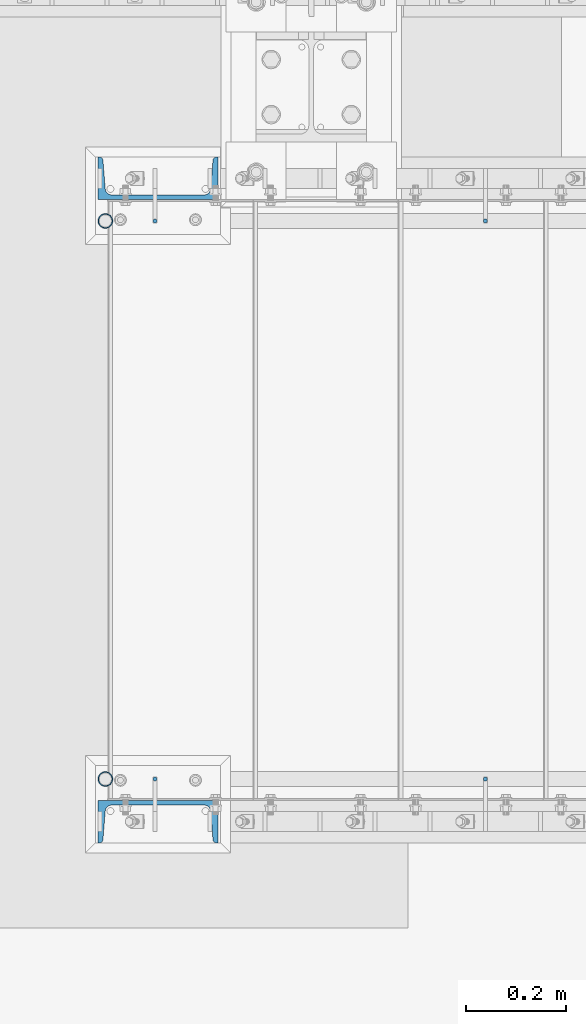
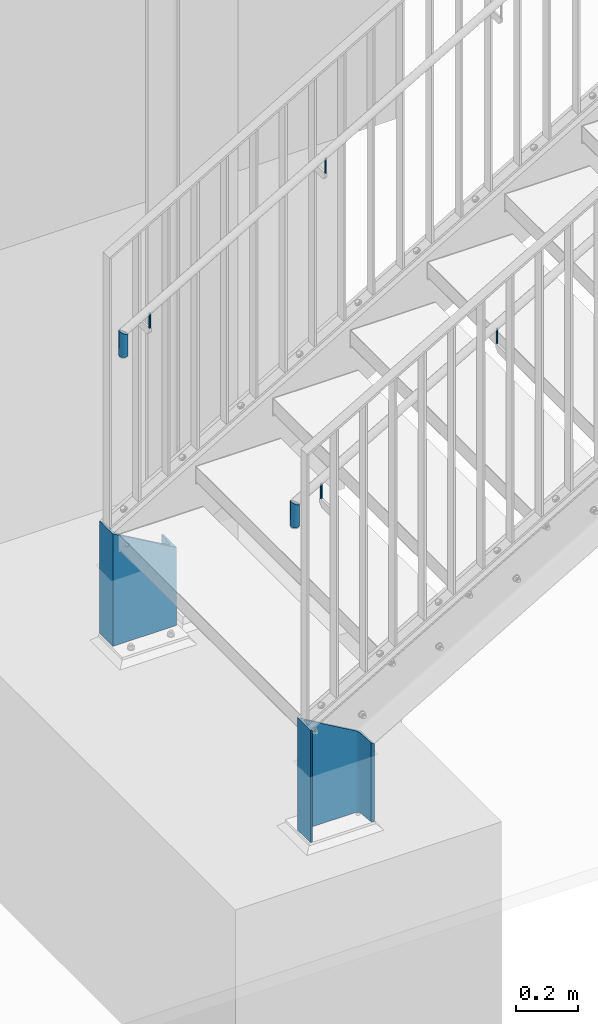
# One storey, part 5 of 145: 8 columns, 6 openings.
"""IFC2X3 building model written with IfcOpenShell, lengths in millimetres."""

from ifc_helpers import new_model, entity, si_unit, converted_unit, frame, frame_2d, origin, origin_with_axes, origin_2d, origin_2d_with_axis, place, context, project, spatial, polyline, circle, hollow_circle, u_section, outline, extrude, clip, halfspace, material, element, save


model = new_model("IFC2X3")

# Units and contexts
model_context = context("Model", 3, precision=1e-09, world=origin_with_axes())
ifc_project = project(units=[si_unit("LENGTHUNIT", "METRE", prefix="MILLI"), si_unit("AREAUNIT", "SQUARE_METRE"), si_unit("VOLUMEUNIT", "CUBIC_METRE"), converted_unit("PLANEANGLEUNIT", "DEGREE", entity("IfcPlaneAngleMeasure", 0.01745329), si_unit("PLANEANGLEUNIT", "RADIAN"), dimensions=[0, 0, 0, 0, 0, 0, 0])], contexts=[model_context])

# Site, building, storey
site_placement = place(None, origin_with_axes())
site = spatial("IfcSite", under=ifc_project, at=site_placement, Name="BZ1 Grund- und Mittelschule 85716 Unterschlei?heim", CompositionType="ELEMENT")
building_placement = place(site_placement, origin_with_axes())
building = spatial("IfcBuilding", under=site, at=building_placement, Name="Struktur 1", CompositionType="ELEMENT")
storey_placement = place(building_placement, origin_with_axes())
storey = spatial("IfcBuildingStorey", under=building, at=storey_placement, Name="Default Storey", CompositionType="ELEMENT", Elevation=0.0)

# Columns
ifc_material_1 = material(Name="1.4301")
column_1_placement = place(None, frame((16659.545893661, -3077.502, 447.00540431), z_axis=(0.0, 0.0, -1.0), x_axis=(1.0, 0.0, 0.0)))
element("IfcColumn", 1, at=column_1_placement, inside=storey, material=ifc_material_1, Name="-", ObjectType="-", context=model_context, shape_type="Clipping", body=[
    clip(extrude(hollow_circle(Radius=15.0, WallThickness=2.0, at=origin_2d()), origin(), (0.0, 0.0, -1.0), 115.844928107), halfspace(frame((-12284.371726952, -3077.502, -7158.30757564), z_axis=(-0.498652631, 0.0, 0.866801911), x_axis=(0.0, 1.0, 0.0)), True)),
])
column_2_placement = place(None, frame((16659.545893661, -1962.502, 447.00540431), z_axis=(0.0, 0.0, 1.0), x_axis=(1.0, 0.0, 0.0)))
element("IfcColumn", 2, at=column_2_placement, inside=storey, material=ifc_material_1, Name="-", ObjectType="-", context=model_context, shape_type="Clipping", body=[
    clip(extrude(hollow_circle(Radius=15.0, WallThickness=2.0, at=origin_2d()), origin(), (0.0, 0.0, 1.0), 115.844928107), halfspace(frame((-12284.371726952, 1962.502, 7158.30757564), z_axis=(-0.498652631, 0.0, -0.866801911), x_axis=(0.0, -1.0, 0.0)), True)),
])

# Column, opening
column_3_placement = place(None, frame((16758.545893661, -3077.502, 520.920612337), z_axis=(0.0, 0.0, -1.0), x_axis=(0.0, -1.0, 0.0)))
column_3 = element("IfcColumn", 3, at=column_3_placement, inside=storey, material=ifc_material_1, Name="-", ObjectType="-", context=model_context, shape_type="SweptSolid", body=[
    extrude(circle(Radius=4.0, at=origin_2d()), origin(), (0.0, 0.0, -1.0), 60.0),
])
opening_1_placement = place(column_3_placement, frame((-104.1, 0.0, -60.0), z_axis=(1.0, 0.0, 0.0), x_axis=(0.0, -1.0, 0.0)))
element("IfcOpeningElement", 4, at=opening_1_placement, cuts=column_3, ObjectType="Opening", context=model_context, shape_type="SweptSolid", body=[
    extrude(outline(polyline([(-13.305390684, -10.064322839), (15.967881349, 6.958222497), (-18.138790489, 6.958222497), (-13.305390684, -10.064322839)])), origin(), (0.0, 0.0, 1.0), 208.2),
])

column_4_placement = place(None, frame((16758.545893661, -1962.502, 520.920612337), z_axis=(0.0, 0.0, 1.0), x_axis=(0.0, 1.0, 0.0)))
column_4 = element("IfcColumn", 5, at=column_4_placement, inside=storey, material=ifc_material_1, Name="-", ObjectType="-", context=model_context, shape_type="SweptSolid", body=[
    extrude(circle(Radius=4.0, at=origin_2d()), origin(), (0.0, 0.0, 1.0), 60.0),
])
opening_2_placement = place(column_4_placement, frame((-104.1, 13.305390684, 49.935677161), z_axis=(-1.0, 0.0, 0.0), x_axis=(0.0, -0.864466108, 0.502691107)))
element("IfcOpeningElement", 6, at=opening_2_placement, cuts=column_4, ObjectType="Opening", context=model_context, shape_type="SweptSolid", body=[
    extrude(outline(polyline([(0.0, 0.0), (33.862833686, 0.0), (4.378771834, 17.145120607), (0.0, 0.0)])), origin(), (0.0, 0.0, -1.0), 208.2),
])

column_5_placement = place(None, frame((17418.545893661, -3077.502, 904.713715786), z_axis=(0.0, 0.0, -1.0), x_axis=(0.0, -1.0, 0.0)))
column_5 = element("IfcColumn", 7, at=column_5_placement, inside=storey, material=ifc_material_1, Name="-", ObjectType="-", context=model_context, shape_type="SweptSolid", body=[
    extrude(circle(Radius=4.0, at=origin_2d()), origin(), (0.0, 0.0, -1.0), 60.0),
])
opening_3_placement = place(column_5_placement, frame((-104.1, 0.0, -60.0), z_axis=(1.0, 0.0, 0.0), x_axis=(0.0, -1.0, 0.0)))
element("IfcOpeningElement", 8, at=opening_3_placement, cuts=column_5, ObjectType="Opening", context=model_context, shape_type="SweptSolid", body=[
    extrude(outline(polyline([(-13.305390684, -10.064322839), (15.967881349, 6.958222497), (-18.138790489, 6.958222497), (-13.305390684, -10.064322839)])), origin(), (0.0, 0.0, 1.0), 208.2),
])

column_6_placement = place(None, frame((17418.545893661, -1962.502, 904.713715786), z_axis=(0.0, 0.0, 1.0), x_axis=(0.0, 1.0, 0.0)))
column_6 = element("IfcColumn", 9, at=column_6_placement, inside=storey, material=ifc_material_1, Name="-", ObjectType="-", context=model_context, shape_type="SweptSolid", body=[
    extrude(circle(Radius=4.0, at=origin_2d()), origin(), (0.0, 0.0, 1.0), 60.0),
])
opening_4_placement = place(column_6_placement, frame((-104.1, 13.305390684, 49.935677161), z_axis=(-1.0, 0.0, 0.0), x_axis=(0.0, -0.864466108, 0.502691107)))
element("IfcOpeningElement", 10, at=opening_4_placement, cuts=column_6, ObjectType="Opening", context=model_context, shape_type="SweptSolid", body=[
    extrude(outline(polyline([(0.0, 0.0), (33.862833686, 0.0), (4.378771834, 17.145120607), (0.0, 0.0)])), origin(), (0.0, 0.0, -1.0), 208.2),
])

ifc_material_2 = material(Name="S235JR")
column_7_placement = place(None, frame((16764.545399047, -3142.302, -730.0), z_axis=(0.0, 0.0, -1.0), x_axis=(0.0, -1.0, 0.0)))
column_7 = element("IfcColumn", 11, at=column_7_placement, inside=storey, material=ifc_material_2, Name="-", ObjectType="-", context=model_context, shape_type="Clipping", body=[
    clip(extrude(u_section(Depth=240.0, FlangeWidth=85.0, WebThickness=9.5, FlangeThickness=13.0, FilletRadius=13.0, EdgeRadius=6.5, FlangeSlope=4.574, at=frame_2d((20.2, 0.0))), origin(), (0.0, 0.0, -1.0), 576.292969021), halfspace(frame((-3142.302, 12748.124663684, -7711.696176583), z_axis=(0.0, 0.498652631, 0.866801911), x_axis=(1.0, 0.0, 0.0)), True)),
])
opening_5_placement = place(column_7_placement, frame((-12.3, 65.0, -383.6363644), z_axis=(-1.0, 0.0, 0.0), x_axis=(0.0, 0.0, -1.0)))
element("IfcOpeningElement", 12, at=opening_5_placement, cuts=column_7, ObjectType="Opening", context=model_context, shape_type="SweptSolid", body=[
    extrude(circle(Radius=7.001, at=origin_2d_with_axis()), origin(), (0.0, 0.0, 1.0), 10.5),
])

column_8_placement = place(None, frame((16764.545399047, -1897.702, -730.0), z_axis=(0.0, 0.0, -1.0), x_axis=(0.0, 1.0, 0.0)))
column_8 = element("IfcColumn", 13, at=column_8_placement, inside=storey, material=ifc_material_2, Name="-", ObjectType="-", context=model_context, shape_type="Clipping", body=[
    clip(extrude(u_section(Depth=240.0, FlangeWidth=85.0, WebThickness=9.5, FlangeThickness=13.0, FilletRadius=13.0, EdgeRadius=6.5, FlangeSlope=4.574, at=frame_2d((20.2, 0.0))), origin(), (0.0, 0.0, -1.0), 576.292969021), halfspace(frame((1897.702, -12748.124663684, -7711.696176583), z_axis=(0.0, -0.498652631, 0.866801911), x_axis=(-1.0, 0.0, 0.0)), True)),
])
opening_6_placement = place(column_8_placement, frame((-12.3, -65.0, -376.6353644), z_axis=(1.0, 0.0, 0.0), x_axis=(0.0, 1.0, 0.0)))
element("IfcOpeningElement", 14, at=opening_6_placement, cuts=column_8, ObjectType="Opening", context=model_context, shape_type="SweptSolid", body=[
    extrude(circle(Radius=7.001, at=frame_2d((0.0, -7.001), x_axis=(1.0, 0.0))), origin(), (0.0, 0.0, -1.0), 10.5),
])

save(model, "model.ifc")
